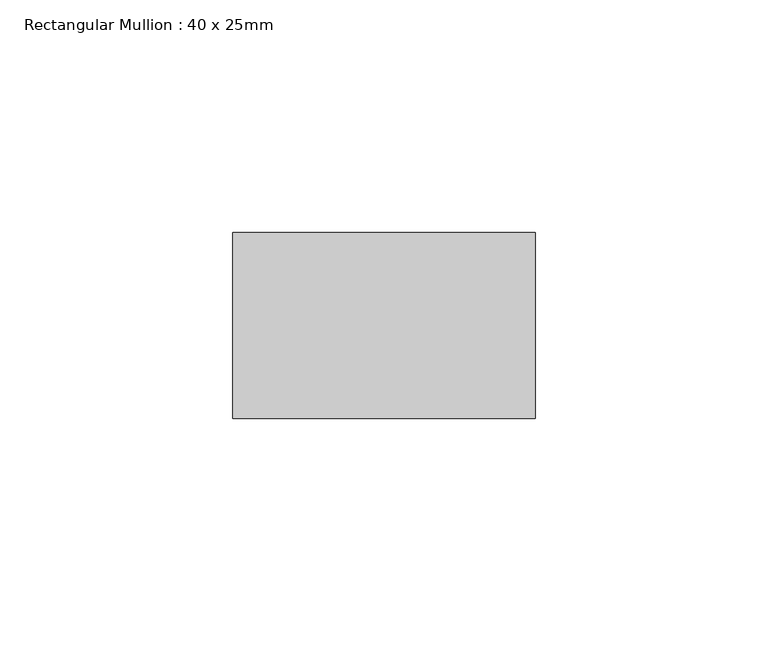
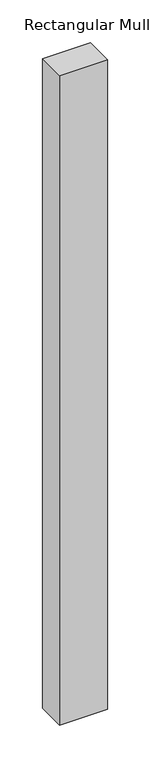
"""IFC4 building model written with IfcOpenShell, lengths in millimetres: member geometry, Rectangular Mullion : 40 x 25mm."""

from ifc_helpers import new_model, si_unit, frame, origin, place, context, project, spatial, polyline, outline, extrude, source, transform, mapped, element, save


def rectangular_mullion_40_x_25mm_a8dd1652(model_context):
    return source(origin(), model_context, "Body", "SweptSolid", [
        extrude(outline(polyline([(40.0, -20.0), (40.0, -60.0), (-25.0, -60.0), (-25.0, -20.0), (40.0, -20.0)])), frame((0.0, 0.0, -930.0), z_axis=(0.0, 0.0, 1.0), x_axis=(1.0, 0.0, 0.0)), (0.0, 0.0, 1.0), 930.0),
    ])


if __name__ == "__main__":
    model = new_model("IFC4")
    model_context = context("Model", 3, world=origin())
    ifc_project = project(units=[si_unit("LENGTHUNIT", "METRE", prefix="MILLI")], contexts=[model_context])
    site = spatial("IfcSite", under=ifc_project)
    building = spatial("IfcBuilding", under=site)
    placement = place(None, origin())
    rectangular_mullion_40_x_25mm_shape = rectangular_mullion_40_x_25mm_a8dd1652(model_context)
    element("IfcMember", 1, ObjectType="Rectangular Mullion : 40 x 25mm", at=placement, inside=building, context=model_context, shape_type="MappedRepresentation", body=[
        mapped(rectangular_mullion_40_x_25mm_shape, transform((0.0, 0.0, 0.0), x_axis=(1.0, 0.0, 0.0), y_axis=(0.0, 1.0, 0.0), z_axis=(0.0, 0.0, 1.0))),
    ])
    save(model, "model.ifc")
